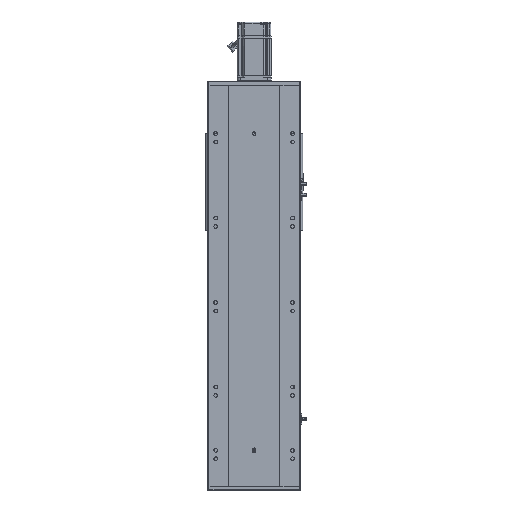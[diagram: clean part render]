
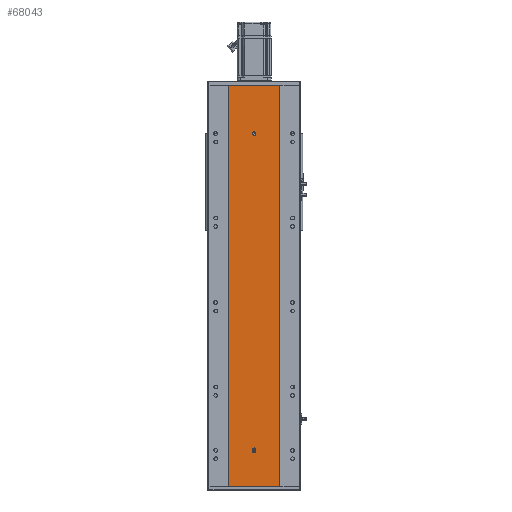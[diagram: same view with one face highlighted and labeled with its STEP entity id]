
A CAD part, front view. The second image highlights one B-rep face of the part: STEP entity #68043.
In plain terms, the highlighted planar face has unit normal (0, -1, 0).
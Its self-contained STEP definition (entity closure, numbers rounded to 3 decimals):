
#1290 = DIRECTION ( 'NONE',  ( 0., -1., 0. ) ) ;
#1689 = VECTOR ( 'NONE', #42614, 1000. ) ;
#2354 = CARTESIAN_POINT ( 'NONE',  ( 60., 0., 950. ) ) ;
#3987 = CIRCLE ( 'NONE', #27283, 4. ) ;
#5284 = DIRECTION ( 'NONE',  ( 0., -1., 0. ) ) ;
#5566 = EDGE_CURVE ( 'NONE', #31140, #26771, #23354, .T. ) ;
#6223 = ORIENTED_EDGE ( 'NONE', *, *, #60584, .F. ) ;
#6340 = EDGE_LOOP ( 'NONE', ( #25180, #6223, #68537, #36150 ) ) ;
#6786 = VERTEX_POINT ( 'NONE', #50294 ) ;
#6840 = FACE_OUTER_BOUND ( 'NONE', #6340, .T. ) ;
#7305 = DIRECTION ( 'NONE',  ( 0., 0., -1. ) ) ;
#8528 = FACE_BOUND ( 'NONE', #47692, .T. ) ;
#10234 = LINE ( 'NONE', #59818, #11928 ) ;
#10287 = AXIS2_PLACEMENT_3D ( 'NONE', #19385, #69683, #36507 ) ;
#11928 = VECTOR ( 'NONE', #43098, 1000. ) ;
#12466 = ORIENTED_EDGE ( 'NONE', *, *, #55397, .F. ) ;
#14078 = ORIENTED_EDGE ( 'NONE', *, *, #27871, .F. ) ;
#15196 = VERTEX_POINT ( 'NONE', #57690 ) ;
#15855 = EDGE_CURVE ( 'NONE', #67530, #43139, #63138, .T. ) ;
#15857 = CARTESIAN_POINT ( 'NONE',  ( -60., 0., 0. ) ) ;
#16059 = CARTESIAN_POINT ( 'NONE',  ( 0., 0., 832. ) ) ;
#16645 = DIRECTION ( 'NONE',  ( 1., 0., 0. ) ) ;
#17580 = CIRCLE ( 'NONE', #36192, 4. ) ;
#18274 = VECTOR ( 'NONE', #16645, 1000. ) ;
#19385 = CARTESIAN_POINT ( 'NONE',  ( -60., 0., 950. ) ) ;
#19760 = VECTOR ( 'NONE', #7305, 1000. ) ;
#20165 = CARTESIAN_POINT ( 'NONE',  ( 0., 0., 836. ) ) ;
#22277 = LINE ( 'NONE', #2354, #19760 ) ;
#23354 = LINE ( 'NONE', #27731, #18274 ) ;
#24112 = CARTESIAN_POINT ( 'NONE',  ( 0., 0., 84.5 ) ) ;
#24326 = DIRECTION ( 'NONE',  ( 0., 0., -1. ) ) ;
#25180 = ORIENTED_EDGE ( 'NONE', *, *, #15855, .T. ) ;
#26771 = VERTEX_POINT ( 'NONE', #28969 ) ;
#27283 = AXIS2_PLACEMENT_3D ( 'NONE', #59454, #1290, #59694 ) ;
#27675 = DIRECTION ( 'NONE',  ( 0., 0., -1. ) ) ;
#27731 = CARTESIAN_POINT ( 'NONE',  ( -60., 0., 950. ) ) ;
#27871 = EDGE_CURVE ( 'NONE', #6786, #59658, #55782, .T. ) ;
#28329 = DIRECTION ( 'NONE',  ( 0., 0., -1. ) ) ;
#28969 = CARTESIAN_POINT ( 'NONE',  ( 60., 0., 950. ) ) ;
#29759 = CARTESIAN_POINT ( 'NONE',  ( -4., 0., 87.5 ) ) ;
#31140 = VERTEX_POINT ( 'NONE', #45834 ) ;
#31415 = CARTESIAN_POINT ( 'NONE',  ( 60., 0., 0. ) ) ;
#31483 = EDGE_CURVE ( 'NONE', #53518, #35657, #3987, .T. ) ;
#32491 = DIRECTION ( 'NONE',  ( 0., 0., -1. ) ) ;
#33093 = EDGE_CURVE ( 'NONE', #48148, #15196, #50192, .T. ) ;
#33299 = DIRECTION ( 'NONE',  ( 0., -1., 0. ) ) ;
#35657 = VERTEX_POINT ( 'NONE', #36866 ) ;
#36150 = ORIENTED_EDGE ( 'NONE', *, *, #50174, .T. ) ;
#36192 = AXIS2_PLACEMENT_3D ( 'NONE', #36819, #33299, #27675 ) ;
#36507 = DIRECTION ( 'NONE',  ( 0., 0., 1. ) ) ;
#36819 = CARTESIAN_POINT ( 'NONE',  ( 0., 0., 84.5 ) ) ;
#36866 = CARTESIAN_POINT ( 'NONE',  ( 0., 0., 840. ) ) ;
#37680 = CARTESIAN_POINT ( 'NONE',  ( -4., 0., 84.5 ) ) ;
#39552 = VECTOR ( 'NONE', #32491, 1000. ) ;
#40567 = DIRECTION ( 'NONE',  ( 0., -1., 0. ) ) ;
#41239 = LINE ( 'NONE', #37680, #39552 ) ;
#42614 = DIRECTION ( 'NONE',  ( 1., 0., 0. ) ) ;
#42970 = CARTESIAN_POINT ( 'NONE',  ( 4., 0., 84.5 ) ) ;
#43098 = DIRECTION ( 'NONE',  ( 0., 0., 1. ) ) ;
#43139 = VERTEX_POINT ( 'NONE', #31415 ) ;
#45386 = LINE ( 'NONE', #60561, #46216 ) ;
#45600 = AXIS2_PLACEMENT_3D ( 'NONE', #62393, #52478, #46139 ) ;
#45834 = CARTESIAN_POINT ( 'NONE',  ( -60., 0., 950. ) ) ;
#46128 = EDGE_CURVE ( 'NONE', #15196, #54596, #17580, .T. ) ;
#46139 = DIRECTION ( 'NONE',  ( 0., 0., -1. ) ) ;
#46216 = VECTOR ( 'NONE', #28329, 1000. ) ;
#47692 = EDGE_LOOP ( 'NONE', ( #65670, #12466 ) ) ;
#47794 = EDGE_LOOP ( 'NONE', ( #63515, #52928, #57650, #47827, #14078 ) ) ;
#47827 = ORIENTED_EDGE ( 'NONE', *, *, #64555, .F. ) ;
#48148 = VERTEX_POINT ( 'NONE', #55454 ) ;
#49819 = FACE_BOUND ( 'NONE', #47794, .T. ) ;
#50174 = EDGE_CURVE ( 'NONE', #31140, #67530, #45386, .T. ) ;
#50192 = CIRCLE ( 'NONE', #59900, 4. ) ;
#50294 = CARTESIAN_POINT ( 'NONE',  ( 4., 0., 87.5 ) ) ;
#52478 = DIRECTION ( 'NONE',  ( 0., -1., 0. ) ) ;
#52601 = DIRECTION ( 'NONE',  ( 0., 0., -1. ) ) ;
#52928 = ORIENTED_EDGE ( 'NONE', *, *, #46128, .F. ) ;
#53518 = VERTEX_POINT ( 'NONE', #16059 ) ;
#54596 = VERTEX_POINT ( 'NONE', #42970 ) ;
#55397 = EDGE_CURVE ( 'NONE', #35657, #53518, #65910, .T. ) ;
#55454 = CARTESIAN_POINT ( 'NONE',  ( -4., 0., 84.5 ) ) ;
#55667 = EDGE_CURVE ( 'NONE', #54596, #6786, #10234, .T. ) ;
#55782 = CIRCLE ( 'NONE', #45600, 4. ) ;
#57248 = PLANE ( 'NONE',  #10287 ) ;
#57650 = ORIENTED_EDGE ( 'NONE', *, *, #33093, .F. ) ;
#57690 = CARTESIAN_POINT ( 'NONE',  ( 0., 0., 80.5 ) ) ;
#59454 = CARTESIAN_POINT ( 'NONE',  ( 0., 0., 836. ) ) ;
#59549 = CARTESIAN_POINT ( 'NONE',  ( -60., 0., 0. ) ) ;
#59658 = VERTEX_POINT ( 'NONE', #29759 ) ;
#59694 = DIRECTION ( 'NONE',  ( 0., 0., -1. ) ) ;
#59818 = CARTESIAN_POINT ( 'NONE',  ( 4., 0., 84.5 ) ) ;
#59900 = AXIS2_PLACEMENT_3D ( 'NONE', #24112, #40567, #24326 ) ;
#60561 = CARTESIAN_POINT ( 'NONE',  ( -60., 0., 950. ) ) ;
#60584 = EDGE_CURVE ( 'NONE', #26771, #43139, #22277, .T. ) ;
#62393 = CARTESIAN_POINT ( 'NONE',  ( 0., 0., 87.5 ) ) ;
#63138 = LINE ( 'NONE', #59549, #1689 ) ;
#63515 = ORIENTED_EDGE ( 'NONE', *, *, #55667, .F. ) ;
#64169 = AXIS2_PLACEMENT_3D ( 'NONE', #20165, #5284, #52601 ) ;
#64555 = EDGE_CURVE ( 'NONE', #59658, #48148, #41239, .T. ) ;
#65670 = ORIENTED_EDGE ( 'NONE', *, *, #31483, .F. ) ;
#65910 = CIRCLE ( 'NONE', #64169, 4. ) ;
#67530 = VERTEX_POINT ( 'NONE', #15857 ) ;
#68043 = ADVANCED_FACE ( 'NONE', ( #8528, #49819, #6840 ), #57248, .F. ) ;
#68537 = ORIENTED_EDGE ( 'NONE', *, *, #5566, .F. ) ;
#69683 = DIRECTION ( 'NONE',  ( 0., 1., 0. ) ) ;
